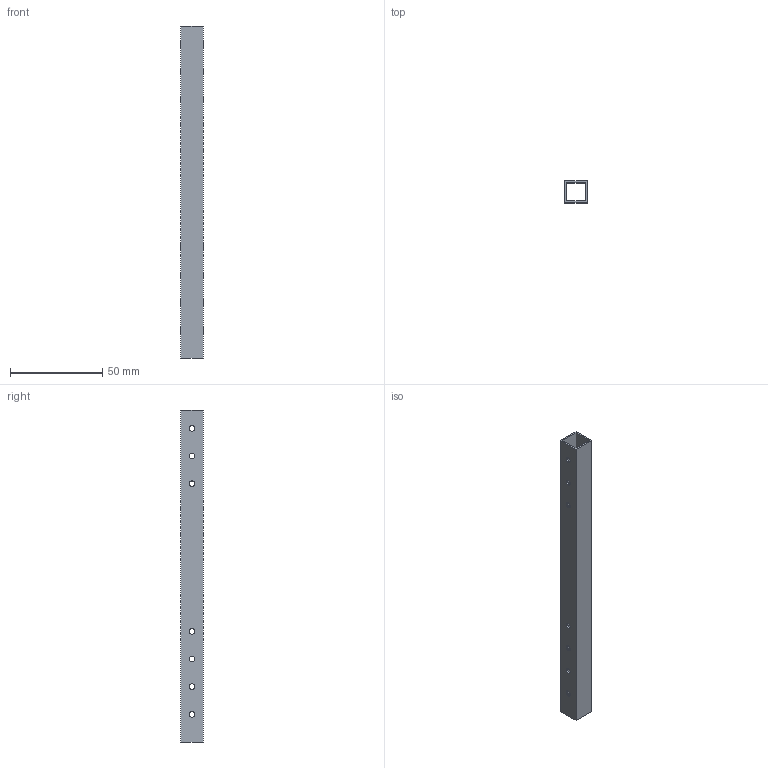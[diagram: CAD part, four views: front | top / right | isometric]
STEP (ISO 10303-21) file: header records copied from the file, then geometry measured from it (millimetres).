
FILE_DESCRIPTION (( 'STEP AP203' ), '1' );
FILE_NAME ('源倛抯奪-2.STEP', '2026-07-29T03:59:42', ( '' ), ( '' ), 'SwSTEP 2.0', 'SolidWorks 2025', '' );
FILE_SCHEMA (( 'CONFIG_CONTROL_DESIGN' ));
Length unit declared in the file: millimetre
Products named in the file (1): 方形碳管-2
Bounding box: 12 x 12 x 180 mm (x, y, z)
Volume: 7814.3 mm3; surface area: 15853 mm2
Topology: 1 solids, 1 shells, 38 faces, 108 edges, 72 vertices
Faces by surface type: cylinder 28, plane 10
Entity records: 1405 total; most frequent: DIRECTION 242, CARTESIAN_POINT 219, ORIENTED_EDGE 216, EDGE_CURVE 108, AXIS2_PLACEMENT_3D 95, VERTEX_POINT 72, EDGE_LOOP 68, CIRCLE 56
